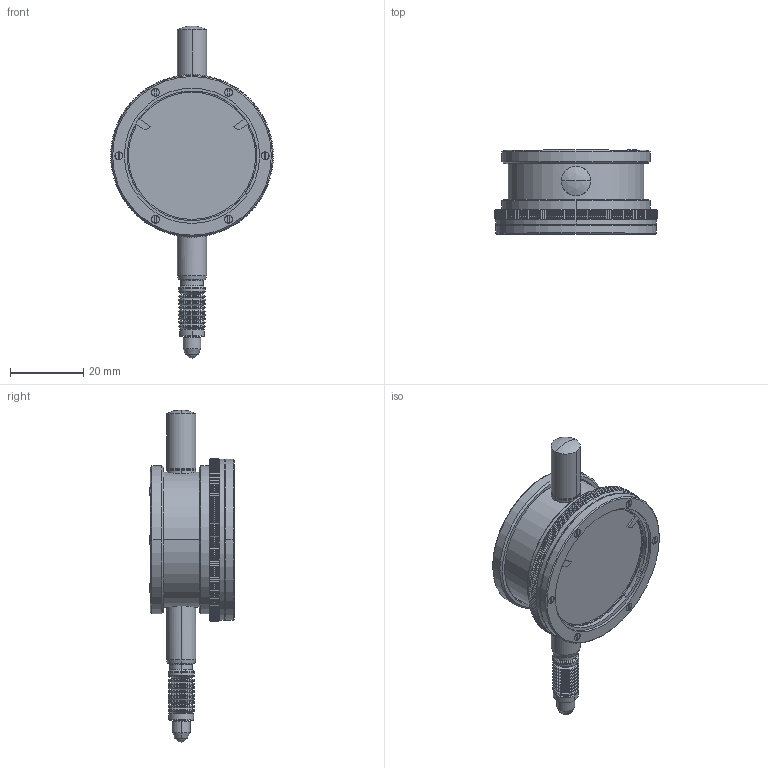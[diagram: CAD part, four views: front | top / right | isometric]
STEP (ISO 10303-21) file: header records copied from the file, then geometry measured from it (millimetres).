
FILE_DESCRIPTION(('STEP AP214'),'1');
FILE_NAME('SI-45W.STP','2016-12-01T10:17:25',(' '),(' '),'Spatial InterOp 3D',' ',' ');
FILE_SCHEMA(('automotive_design'));
Length unit declared in the file: millimetre
Products named in the file (5): 1; 2; 3; 4; 5
Bounding box: 44.5 x 23.1 x 90.8 mm (x, y, z)
Volume: 10603.4 mm3; surface area: 16414.5 mm2
Topology: 5 solids, 15 shells, 1148 faces, 2987 edges, 1900 vertices
Faces by surface type: plane 605, cylinder 235, cone 210, torus 86, sphere 10, bspline 2
Entity records: 36222 total; most frequent: CARTESIAN_POINT 10285, ORIENTED_EDGE 5922, DIRECTION 5193, EDGE_CURVE 2961, AXIS2_PLACEMENT_3D 2082, VERTEX_POINT 1900, EDGE_LOOP 1225, ADVANCED_FACE 1148
